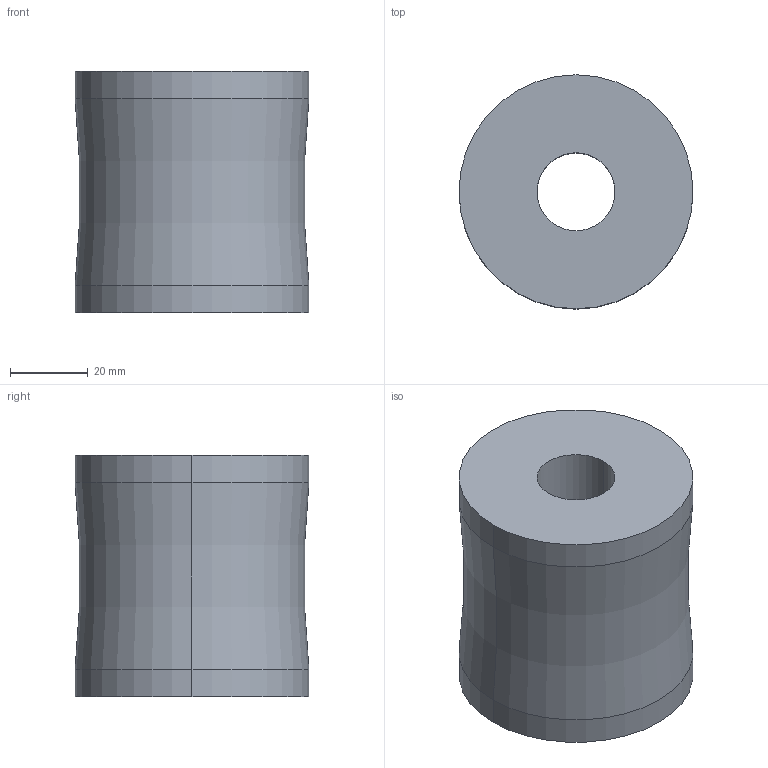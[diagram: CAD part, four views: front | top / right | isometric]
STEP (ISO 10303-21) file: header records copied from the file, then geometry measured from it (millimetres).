
FILE_DESCRIPTION(/* description */ (''),/* implementation_level */ '2;1');
FILE_NAME(/* name */ '3d_ex6206_06501_r00.stp',/* time_stamp */ '2011-01-10T14:15:38+09:00',/* author */ ('MISUMI'),/* organization */ (''),/* preprocessor_version */ 'ST-DEVELOPER v11',/* originating_system */ 'UGS - NX 5.0',/* authorisation */ '');
FILE_SCHEMA (('CONFIG_CONTROL_DESIGN'));
Length unit declared in the file: millimetre
Products named in the file (1): 3d_ex6206_06501_r00
Bounding box: 60 x 60 x 62 mm (x, y, z)
Volume: 148274.7 mm3; surface area: 20369.5 mm2
Topology: 1 solids, 1 shells, 10 faces, 20 edges, 12 vertices
Faces by surface type: cylinder 6, plane 2, torus 2
Entity records: 356 total; most frequent: DIRECTION 56, CARTESIAN_POINT 43, ORIENTED_EDGE 40, AXIS2_PLACEMENT_3D 25, EDGE_CURVE 20, CIRCLE 14, EDGE_LOOP 12, VERTEX_POINT 12
